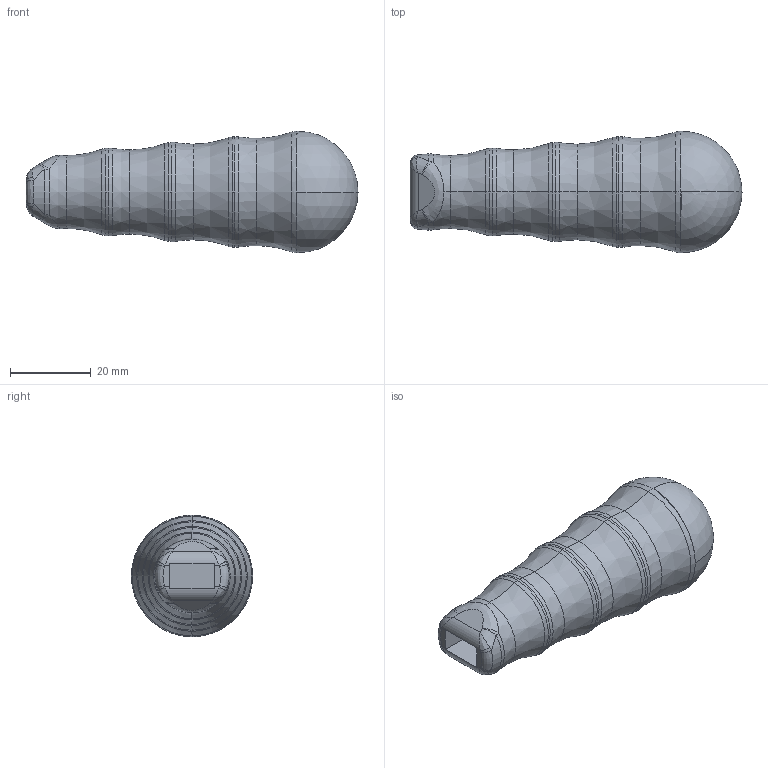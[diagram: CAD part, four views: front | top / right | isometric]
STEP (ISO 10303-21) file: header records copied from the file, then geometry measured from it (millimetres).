
FILE_DESCRIPTION((''),'2;1');
FILE_NAME('C:\DATA\VÝKRESY 2004\UPÍNKY\800 110\800 110.stp','2005-09-28T11:43:40',('Kysilko'),(''),'Autodesk Inventor 8','Autodesk Inventor 8','');
FILE_SCHEMA(('AUTOMOTIVE_DESIGN { 1 0 10303 214 1 1 1 1 }'));
Length unit declared in the file: millimetre
Products named in the file (1): Part12
Bounding box: 82 x 30 x 30 mm (x, y, z)
Volume: 29893.6 mm3; surface area: 9100.9 mm2
Topology: 1 solids, 1 shells, 83 faces, 190 edges, 99 vertices
Faces by surface type: bspline 48, cone 14, sphere 10, plane 9, cylinder 2
Entity records: 7926 total; most frequent: CARTESIAN_POINT 6258, ORIENTED_EDGE 360, DIRECTION 342, EDGE_CURVE 180, AXIS2_PLACEMENT_3D 156, CIRCLE 120, VERTEX_POINT 99, EDGE_LOOP 83
